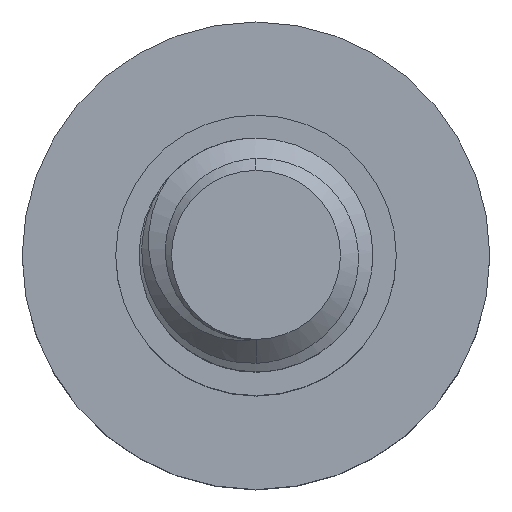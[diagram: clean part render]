
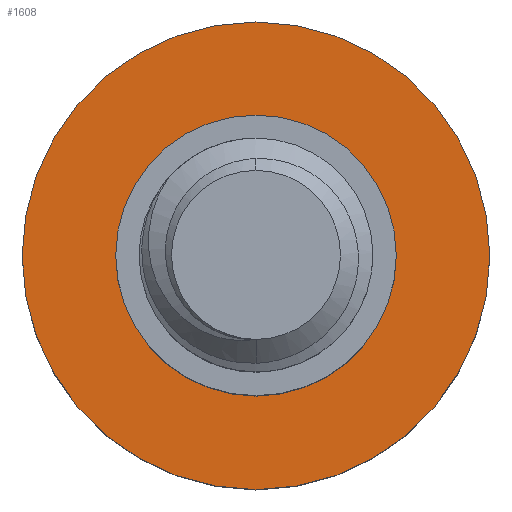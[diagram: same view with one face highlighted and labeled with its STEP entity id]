
A CAD part, top view. The second image highlights one B-rep face of the part: STEP entity #1608.
In plain terms, the highlighted planar face has unit normal (0, 0, 1).
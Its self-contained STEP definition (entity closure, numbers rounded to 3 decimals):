
#133 = CARTESIAN_POINT ( 'NONE',  ( 0., 0., -5. ) ) ;
#247 = ORIENTED_EDGE ( 'NONE', *, *, #687, .F. ) ;
#333 = CIRCLE ( 'NONE', #866, 3. ) ;
#351 = CARTESIAN_POINT ( 'NONE',  ( 3., 0., -5. ) ) ;
#412 = AXIS2_PLACEMENT_3D ( 'NONE', #1149, #758, #1160 ) ;
#459 = DIRECTION ( 'NONE',  ( 0., 0., -1. ) ) ;
#511 = EDGE_CURVE ( 'NONE', #1869, #1976, #1377, .T. ) ;
#526 = CARTESIAN_POINT ( 'NONE',  ( -5., 0., -5. ) ) ;
#664 = DIRECTION ( 'NONE',  ( 0., 0., -1. ) ) ;
#674 = DIRECTION ( 'NONE',  ( -1., 0., 0. ) ) ;
#687 = EDGE_CURVE ( 'NONE', #918, #729, #1602, .T. ) ;
#719 = ORIENTED_EDGE ( 'NONE', *, *, #511, .T. ) ;
#729 = VERTEX_POINT ( 'NONE', #1320 ) ;
#758 = DIRECTION ( 'NONE',  ( 0., 0., -1. ) ) ;
#856 = DIRECTION ( 'NONE',  ( 0., 0., -1. ) ) ;
#866 = AXIS2_PLACEMENT_3D ( 'NONE', #133, #664, #1946 ) ;
#918 = VERTEX_POINT ( 'NONE', #526 ) ;
#1149 = CARTESIAN_POINT ( 'NONE',  ( 0., 0., -5. ) ) ;
#1151 = EDGE_LOOP ( 'NONE', ( #719, #2259 ) ) ;
#1160 = DIRECTION ( 'NONE',  ( -1., 0., 0. ) ) ;
#1166 = EDGE_CURVE ( 'NONE', #1976, #1869, #333, .T. ) ;
#1254 = CARTESIAN_POINT ( 'NONE',  ( 0., 0., -5. ) ) ;
#1259 = AXIS2_PLACEMENT_3D ( 'NONE', #1366, #459, #2333 ) ;
#1312 = ORIENTED_EDGE ( 'NONE', *, *, #2221, .F. ) ;
#1320 = CARTESIAN_POINT ( 'NONE',  ( 5., 0., -5. ) ) ;
#1366 = CARTESIAN_POINT ( 'NONE',  ( 0., 0., -5. ) ) ;
#1376 = FACE_BOUND ( 'NONE', #1151, .T. ) ;
#1377 = CIRCLE ( 'NONE', #2226, 3. ) ;
#1445 = CARTESIAN_POINT ( 'NONE',  ( 0., 0., -5. ) ) ;
#1460 = AXIS2_PLACEMENT_3D ( 'NONE', #1445, #856, #674 ) ;
#1602 = CIRCLE ( 'NONE', #412, 5. ) ;
#1608 = ADVANCED_FACE ( 'NONE', ( #1376, #2118 ), #1772, .F. ) ;
#1630 = DIRECTION ( 'NONE',  ( 0., 0., -1. ) ) ;
#1689 = CIRCLE ( 'NONE', #1460, 5. ) ;
#1772 = PLANE ( 'NONE',  #1259 ) ;
#1869 = VERTEX_POINT ( 'NONE', #2049 ) ;
#1946 = DIRECTION ( 'NONE',  ( -1., 0., 0. ) ) ;
#1976 = VERTEX_POINT ( 'NONE', #351 ) ;
#2049 = CARTESIAN_POINT ( 'NONE',  ( -3., 0., -5. ) ) ;
#2118 = FACE_OUTER_BOUND ( 'NONE', #2374, .T. ) ;
#2221 = EDGE_CURVE ( 'NONE', #729, #918, #1689, .T. ) ;
#2226 = AXIS2_PLACEMENT_3D ( 'NONE', #1254, #1630, #2372 ) ;
#2259 = ORIENTED_EDGE ( 'NONE', *, *, #1166, .T. ) ;
#2333 = DIRECTION ( 'NONE',  ( -1., 0., 0. ) ) ;
#2372 = DIRECTION ( 'NONE',  ( -1., 0., 0. ) ) ;
#2374 = EDGE_LOOP ( 'NONE', ( #1312, #247 ) ) ;
